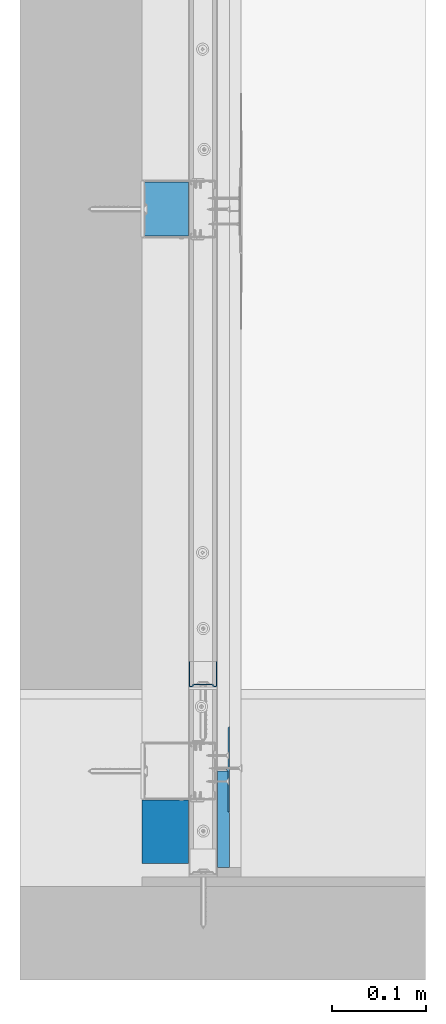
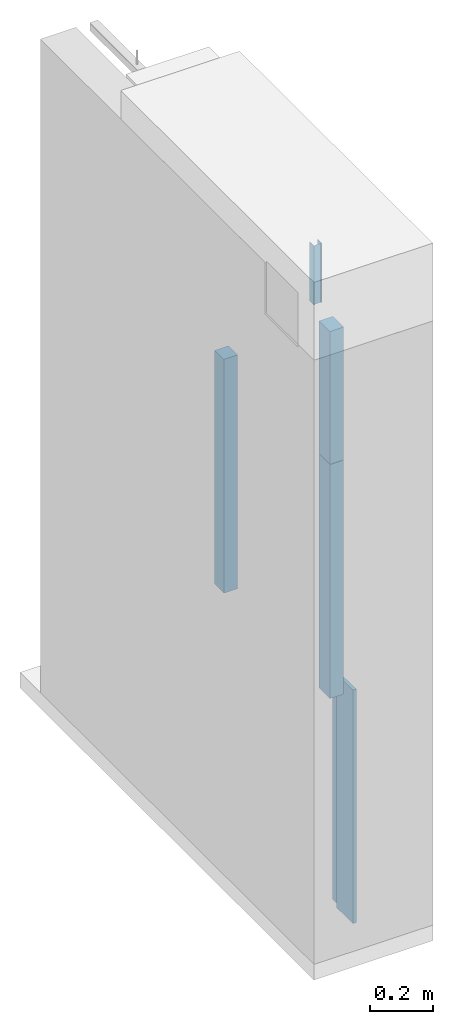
# One storey, part 7 of 62: 6 walls.
"""IFC2X3 building model written with IfcOpenShell, lengths in millimetres."""

from ifc_helpers import new_model, si_unit, frame, origin_with_axes, place, context, subcontext, project, spatial, faceted_brep, material, type_object, element, save


model = new_model("IFC2X3")

# Units and contexts
model_context = context("Model", 3, world=origin_with_axes())
body_context = subcontext(model_context, "Body", "Model", "MODEL_VIEW")
ifc_project = project(units=[si_unit("LENGTHUNIT", "METRE", prefix="MILLI"), si_unit("AREAUNIT", "SQUARE_METRE"), si_unit("VOLUMEUNIT", "CUBIC_METRE")], contexts=[model_context])

# Site, building, storey
site_placement = place(None, frame((2152.14102611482, -2015.0250894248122, 57.61556563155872), z_axis=(0.0, 0.0, 1.0), x_axis=(-1.1102230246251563e-16, 1.0, 0.0)))
site = spatial("IfcSite", under=ifc_project, at=site_placement, Name="Default Site", CompositionType="ELEMENT")
building_placement = place(site_placement, origin_with_axes())
building = spatial("IfcBuilding", under=site, at=building_placement, Name="Default Building", CompositionType="ELEMENT")
storey_placement = place(building_placement, origin_with_axes())
storey = spatial("IfcBuildingStorey", under=building, at=storey_placement, Name="Default Building Storey", CompositionType="ELEMENT", Elevation=57.61556563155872)

# Walls
ifc_material_1 = material(Name="Undefined5")
wall_type_1 = type_object("IfcWallType", Name="Masa szpachlowa konstrukcyjna RIGIPS#2", PredefinedType="NOTDEFINED")
wall_1_placement = place(storey_placement, frame((2976.8888650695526, 5319.236799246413, 261.59003980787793), z_axis=(0.0, 0.0, 1.0), x_axis=(1.0, 0.0, 0.0)))
element("IfcWall", 1, at=wall_1_placement, inside=storey, type_object=wall_type_1, material=ifc_material_1, Name="Masa szpachlowa konstrukcyjna RIGIPS", context=body_context, shape_type="Brep", body=[
    faceted_brep([(-737.5571131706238, -3387.974739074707, 600.7999777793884), (-737.6772165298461, -3388.2646560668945, 600.7999777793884), (-737.8411889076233, -3388.532400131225, 600.7999777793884), (-738.0449771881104, -3388.770818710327, 600.7999777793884), (-738.283634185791, -3388.9746665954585, 600.7999777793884), (-738.5512590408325, -3389.138698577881, 600.7999777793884), (-738.84117603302, -3389.258861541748, 600.7999777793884), (-739.14635181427, -3389.3320560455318, 600.7999777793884), (-739.459216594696, -3389.3566131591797, 600.7999777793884), (-782.4591994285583, -3389.3566131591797, 600.7999777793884), (-782.4591994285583, -3390.556812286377, 600.7999777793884), (-691.4592385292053, -3390.556812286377, 600.7999777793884), (-692.459225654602, -3389.3566131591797, 600.7999777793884), (-735.4592084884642, -3389.3566131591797, 600.7999777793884), (-735.7720732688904, -3389.3320560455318, 600.7999777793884), (-736.0772490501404, -3389.258861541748, 600.7999777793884), (-736.3672256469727, -3389.138698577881, 600.7999777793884), (-736.6347908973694, -3388.9746665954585, 600.7999777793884), (-736.87344789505, -3388.770818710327, 600.7999777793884), (-737.0772361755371, -3388.532400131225, 600.7999777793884), (-737.2412085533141, -3388.2646560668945, 600.7999777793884), (-737.3613119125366, -3387.974739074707, 600.7999777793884), (-737.4345660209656, -3387.669563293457, 600.7999777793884), (-737.4592423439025, -3387.356758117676, 600.7999777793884), (-737.4838590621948, -3387.669563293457, 600.7999777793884), (-782.4591994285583, -3390.556812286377, -249.20158088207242), (-782.4591994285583, -3389.3566131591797, -249.20158088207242), (-739.459216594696, -3389.3566131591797, -249.20158088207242), (-739.14635181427, -3389.3320560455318, -249.20158088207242), (-738.84117603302, -3389.258861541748, -249.20158088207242), (-738.5512590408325, -3389.138698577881, -249.20158088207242), (-738.283634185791, -3388.9746665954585, -249.20158088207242), (-738.0449771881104, -3388.770818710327, -249.20158088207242), (-737.8411889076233, -3388.532400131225, -249.20158088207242), (-737.6772165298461, -3388.2646560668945, -249.20158088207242), (-737.5571131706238, -3387.974739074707, -249.20158088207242), (-737.4838590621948, -3387.669563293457, -249.20158088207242), (-737.4592423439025, -3387.356758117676, -249.20158088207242), (-737.4345660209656, -3387.669563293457, -249.20158088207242), (-737.3613119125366, -3387.974739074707, -249.20158088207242), (-737.2412085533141, -3388.2646560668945, -249.20158088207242), (-737.0772361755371, -3388.532400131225, -249.20158088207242), (-736.87344789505, -3388.770818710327, -249.20158088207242), (-736.6347908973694, -3388.9746665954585, -249.20158088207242), (-736.3672256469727, -3389.138698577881, -249.20158088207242), (-736.0772490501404, -3389.258861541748, -249.20158088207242), (-735.7720732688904, -3389.3320560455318, -249.20158088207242), (-735.4592084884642, -3389.3566131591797, -249.20158088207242), (-692.459225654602, -3389.3566131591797, -249.20158088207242), (-691.4592385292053, -3390.556812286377, -249.20158088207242)], [[[0, 1, 2, 3, 4, 5, 6, 7, 8, 9, 10, 11, 12, 13, 14, 15, 16, 17, 18, 19, 20, 21, 22, 23, 24]], [[25, 26, 27, 28, 29, 30, 31, 32, 33, 34, 35, 36, 37, 38, 39, 40, 41, 42, 43, 44, 45, 46, 47, 48, 49]], [[47, 13, 12, 48]], [[46, 45, 15, 14]], [[14, 13, 47, 46]], [[15, 45, 44, 16]], [[43, 42, 18, 17]], [[17, 16, 44, 43]], [[41, 40, 20, 19]], [[19, 18, 42, 41]], [[20, 40, 39, 21]], [[38, 37, 23, 22]], [[22, 21, 39, 38]], [[36, 35, 0, 24]], [[24, 23, 37, 36]], [[0, 35, 34, 1]], [[33, 32, 3, 2]], [[2, 1, 34, 33]], [[31, 30, 5, 4]], [[4, 3, 32, 31]], [[5, 30, 29, 6]], [[28, 27, 8, 7]], [[7, 6, 29, 28]], [[26, 9, 8, 27]], [[25, 10, 9, 26]], [[49, 11, 10, 25]], [[48, 12, 11, 49]]]),
])
ifc_material_2 = material(Name="Undefined9")
wall_type_2 = type_object("IfcWallType", Name="Profil RIGIPS UD 30 GypSerra®/Ultrastil®#3", PredefinedType="NOTDEFINED")
wall_2_placement = place(storey_placement, frame((2213.9663559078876, 472.8601178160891, 5243.603359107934), z_axis=(1.0, 6.860037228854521e-13, 6.156186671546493e-14), x_axis=(6.156186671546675e-14, -2.6462982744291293e-15, -1.0)))
element("IfcWall", 2, at=wall_2_placement, inside=storey, type_object=wall_type_2, material=ifc_material_2, Name="Profil RIGIPS UD 30 GypSerra®/Ultrastil®", context=body_context, shape_type="Brep", body=[
    faceted_brep([(2953.219337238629, 1469.9159860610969, 140.97499847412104), (2953.219337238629, 1469.366073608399, 140.97499847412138), (2953.2193372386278, 1469.3660736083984, 114.7750020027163), (2953.2193372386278, 1469.3758487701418, 114.6498546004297), (2953.2193372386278, 1469.405174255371, 114.52778428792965), (2953.2193372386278, 1469.4532155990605, 114.41180855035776), (2953.219337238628, 1469.5187807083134, 114.30477350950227), (2953.219337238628, 1469.6003198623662, 114.20931667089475), (2953.219337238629, 1469.6958065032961, 114.1277849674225), (2953.219337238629, 1469.8028564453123, 114.06219750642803), (2953.219337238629, 1469.9188470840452, 114.01415616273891), (2953.219337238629, 1470.0409173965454, 113.98485302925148), (2953.219337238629, 1470.166087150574, 113.97500336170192), (2953.219337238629, 1472.0159769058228, 113.97500336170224), (2953.219337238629, 1472.1635580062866, 113.98871988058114), (2953.219337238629, 1472.3060131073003, 114.02940750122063), (2953.219337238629, 1472.438573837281, 114.09565806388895), (2953.219337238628, 1472.5565910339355, 114.1852140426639), (2953.219337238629, 1472.6560115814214, 114.29499834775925), (2953.2193372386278, 1473.6760854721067, 115.65499752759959), (2953.2193372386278, 1473.7755060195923, 115.7647818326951), (2953.2193372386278, 1473.8935232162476, 115.8543378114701), (2953.219337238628, 1474.0260839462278, 115.92059582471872), (2953.219337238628, 1474.1685390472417, 115.96128344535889), (2953.219337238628, 1474.316000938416, 115.97499996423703), (2953.219337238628, 1493.6159849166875, 115.97499996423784), (2953.219337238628, 1493.7635660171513, 115.96128344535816), (2953.219337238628, 1493.906021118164, 115.92059582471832), (2953.219337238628, 1494.0385818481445, 115.85433781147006), (2953.219337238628, 1494.1565990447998, 115.7647818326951), (2953.219337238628, 1494.2560195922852, 115.65499752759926), (2953.219337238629, 1495.275974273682, 114.29499834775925), (2953.219337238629, 1495.3755140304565, 114.18521404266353), (2953.219337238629, 1495.4935312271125, 114.0956580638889), (2953.219337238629, 1495.626091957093, 114.02940750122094), (2953.219337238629, 1495.7685470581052, 113.98871988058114), (2953.219337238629, 1495.91600894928, 113.97500336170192), (2953.219337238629, 1497.7660179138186, 113.97500336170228), (2953.219337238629, 1497.8911876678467, 113.98485302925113), (2953.219337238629, 1498.0132579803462, 114.01415616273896), (2953.219337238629, 1498.1292486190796, 114.06219750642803), (2953.219337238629, 1498.2362985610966, 114.12778496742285), (2953.219337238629, 1498.331665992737, 114.2093166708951), (2953.219337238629, 1498.4132051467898, 114.30477350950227), (2953.219337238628, 1498.4788894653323, 114.41180855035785), (2953.219337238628, 1498.5269308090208, 114.5277842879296), (2953.219337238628, 1498.5561370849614, 114.64985460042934), (2953.2193372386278, 1498.5660314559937, 114.77500200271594), (2953.219337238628, 1498.5660314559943, 140.97499847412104), (2953.219337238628, 1498.0159997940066, 140.97499847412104), (2953.2193372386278, 1498.0159997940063, 114.77500200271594), (2953.219337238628, 1498.0129003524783, 114.73589390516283), (2953.219337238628, 1498.0038404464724, 114.69774693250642), (2953.219337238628, 1497.9888200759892, 114.66149985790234), (2953.219337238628, 1497.9683160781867, 114.62805420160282), (2953.219337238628, 1497.9428052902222, 114.5982220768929), (2953.219337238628, 1497.9130029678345, 114.57274854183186), (2953.219337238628, 1497.8795051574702, 114.55225199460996), (2953.219337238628, 1497.843265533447, 114.53723907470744), (2953.219337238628, 1497.805118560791, 114.52807486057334), (2953.219337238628, 1497.7660179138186, 114.52499777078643), (2953.219337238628, 1495.91600894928, 114.52499777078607), (2953.219337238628, 1495.8698749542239, 114.52928930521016), (2953.219337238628, 1495.8254098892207, 114.54199999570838), (2953.219337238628, 1495.7840442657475, 114.56270515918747), (2953.219337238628, 1495.7470893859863, 114.59068953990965), (2953.219337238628, 1495.7159757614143, 114.62499946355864), (2953.219337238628, 1494.6960210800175, 115.98499864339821), (2953.219337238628, 1494.5281744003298, 116.1702573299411), (2953.2193372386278, 1494.3289756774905, 116.3213849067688), (2953.2193372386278, 1494.105339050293, 116.43319576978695), (2953.2193372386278, 1493.8650131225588, 116.5018528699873), (2953.2193372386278, 1493.6159849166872, 116.52500182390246), (2953.219337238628, 1474.3160009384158, 116.52500182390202), (2953.219337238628, 1474.067091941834, 116.50185286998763), (2953.219337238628, 1473.8266468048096, 116.4331957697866), (2953.219337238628, 1473.6031293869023, 116.3213849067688), (2953.219337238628, 1473.4039306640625, 116.17025732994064), (2953.219337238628, 1473.2360839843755, 115.98499864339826), (2953.2193372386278, 1472.2160100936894, 114.6249994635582), (2953.2193372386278, 1472.1848964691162, 114.59068953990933), (2953.2193372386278, 1472.1480607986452, 114.56270515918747), (2953.2193372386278, 1472.1066951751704, 114.54199999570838), (2953.2193372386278, 1472.062110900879, 114.52928930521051), (2953.2193372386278, 1472.0159769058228, 114.52499777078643), (2953.2193372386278, 1470.166087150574, 114.52499777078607), (2953.2193372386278, 1470.1268672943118, 114.52807486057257), (2953.2193372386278, 1470.088720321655, 114.53723907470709), (2953.2193372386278, 1470.0524806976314, 114.55225199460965), (2953.2193372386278, 1470.0191020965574, 114.57274854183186), (2953.2193372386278, 1469.9892997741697, 114.59822207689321), (2953.2193372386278, 1469.9637889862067, 114.62805420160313), (2953.2193372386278, 1469.943284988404, 114.66149985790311), (2953.2193372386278, 1469.9282646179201, 114.69774693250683), (2953.2193372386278, 1469.9190855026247, 114.73589390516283), (2953.2193372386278, 1469.9159860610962, 114.7750020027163), (2726.1740592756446, 1469.3660736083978, 114.77500200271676), (2726.174059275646, 1469.3660736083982, 140.97499847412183), (2726.174059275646, 1469.915986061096, 140.9749984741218), (2726.1740592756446, 1469.9159860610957, 114.7750020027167), (2726.1740592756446, 1469.9190855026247, 114.73589390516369), (2726.1740592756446, 1469.9282646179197, 114.69774693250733), (2726.1740592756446, 1469.943284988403, 114.6614998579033), (2726.1740592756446, 1469.963788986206, 114.62805420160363), (2726.1740592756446, 1469.9892997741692, 114.5982220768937), (2726.1740592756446, 1470.019102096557, 114.57274854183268), (2726.1740592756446, 1470.052480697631, 114.5522519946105), (2726.1740592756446, 1470.0887203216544, 114.53723907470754), (2726.1740592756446, 1470.1268672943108, 114.52807486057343), (2726.1740592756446, 1470.166087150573, 114.52499777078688), (2726.1740592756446, 1472.015976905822, 114.52499777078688), (2726.1740592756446, 1472.0621109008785, 114.52928930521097), (2726.1740592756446, 1472.1066951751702, 114.54199999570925), (2726.1740592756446, 1472.1480607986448, 114.56270515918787), (2726.1740592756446, 1472.1848964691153, 114.59068953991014), (2726.1740592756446, 1472.2160100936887, 114.6249994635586), (2726.174059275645, 1473.2360839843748, 115.98499864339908), (2726.174059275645, 1473.4039306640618, 116.17025732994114), (2726.174059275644, 1473.6031293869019, 116.32138490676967), (2726.174059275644, 1473.826646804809, 116.4331957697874), (2726.174059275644, 1474.0670919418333, 116.50185286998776), (2726.174059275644, 1474.3160009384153, 116.52500182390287), (2726.1740592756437, 1493.6159849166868, 116.52500182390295), (2726.1740592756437, 1493.8650131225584, 116.50185286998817), (2726.1740592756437, 1494.1053390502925, 116.43319576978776), (2726.1740592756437, 1494.3289756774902, 116.3213849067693), (2726.1740592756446, 1494.528174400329, 116.17025732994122), (2726.174059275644, 1494.6960210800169, 115.98499864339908), (2726.174059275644, 1495.7159757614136, 114.62499946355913), (2726.174059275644, 1495.7470893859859, 114.59068953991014), (2726.174059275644, 1495.7840442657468, 114.56270515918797), (2726.174059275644, 1495.8254098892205, 114.54199999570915), (2726.174059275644, 1495.869874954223, 114.52928930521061), (2726.174059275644, 1495.916008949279, 114.52499777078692), (2726.174059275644, 1497.7660179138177, 114.52499777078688), (2726.174059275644, 1497.8051185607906, 114.52807486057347), (2726.174059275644, 1497.8432655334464, 114.53723907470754), (2726.174059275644, 1497.8795051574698, 114.55225199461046), (2726.174059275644, 1497.913002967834, 114.57274854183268), (2726.174059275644, 1497.9428052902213, 114.59822207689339), (2726.174059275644, 1497.968316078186, 114.62805420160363), (2726.174059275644, 1497.9888200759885, 114.6614998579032), (2726.174059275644, 1498.003840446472, 114.69774693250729), (2726.174059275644, 1498.012900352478, 114.73589390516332), (2726.174059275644, 1498.0159997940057, 114.7750020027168), (2726.174059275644, 1498.0159997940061, 140.9749984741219), (2726.174059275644, 1498.5660314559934, 140.97499847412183), (2726.174059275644, 1498.5660314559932, 114.77500200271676), (2726.174059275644, 1498.5561370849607, 114.64985460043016), (2726.174059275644, 1498.5269308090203, 114.5277842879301), (2726.174059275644, 1498.4788894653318, 114.41180855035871), (2726.174059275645, 1498.413205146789, 114.30477350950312), (2726.174059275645, 1498.331665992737, 114.20931667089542), (2726.174059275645, 1498.236298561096, 114.12778496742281), (2726.174059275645, 1498.1292486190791, 114.0621975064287), (2726.1740592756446, 1498.013257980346, 114.01415616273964), (2726.1740592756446, 1497.891187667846, 113.9848530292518), (2726.1740592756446, 1497.766017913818, 113.97500336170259), (2726.1740592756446, 1495.9160089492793, 113.97500336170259), (2726.1740592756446, 1495.7685470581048, 113.98871988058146), (2726.1740592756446, 1495.6260919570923, 114.02940750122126), (2726.174059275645, 1495.4935312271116, 114.09565806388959), (2726.174059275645, 1495.3755140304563, 114.18521404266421), (2726.174059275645, 1495.2759742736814, 114.29499834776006), (2726.174059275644, 1494.2560195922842, 115.65499752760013), (2726.174059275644, 1494.1565990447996, 115.76478183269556), (2726.174059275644, 1494.038581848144, 115.85433781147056), (2726.174059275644, 1493.9060211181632, 115.92059582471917), (2726.174059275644, 1493.7635660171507, 115.96128344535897), (2726.174059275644, 1493.6159849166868, 115.97499996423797), (2726.174059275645, 1474.3160009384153, 115.97499996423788), (2726.174059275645, 1474.168539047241, 115.96128344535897), (2726.174059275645, 1474.0260839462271, 115.92059582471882), (2726.174059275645, 1473.8935232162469, 115.85433781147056), (2726.174059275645, 1473.775506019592, 115.76478183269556), (2726.174059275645, 1473.676085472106, 115.65499752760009), (2726.1740592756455, 1472.6560115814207, 114.29499834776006), (2726.1740592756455, 1472.5565910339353, 114.18521404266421), (2726.1740592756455, 1472.43857383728, 114.09565806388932), (2726.174059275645, 1472.3060131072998, 114.02940750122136), (2726.1740592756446, 1472.1635580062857, 113.98871988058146), (2726.1740592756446, 1472.015976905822, 113.97500336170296), (2726.1740592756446, 1470.166087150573, 113.97500336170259), (2726.1740592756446, 1470.0409173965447, 113.9848530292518), (2726.1740592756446, 1469.9188470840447, 114.01415616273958), (2726.1740592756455, 1469.802856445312, 114.06219750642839), (2726.1740592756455, 1469.6958065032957, 114.12778496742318), (2726.1740592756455, 1469.6003198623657, 114.20931667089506), (2726.1740592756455, 1469.518780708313, 114.30477350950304), (2726.1740592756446, 1469.4532155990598, 114.41180855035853), (2726.1740592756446, 1469.4051742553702, 114.52778428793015), (2726.1740592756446, 1469.3758487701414, 114.64985460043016)], [[[0, 1, 2, 3, 4, 5, 6, 7, 8, 9, 10, 11, 12, 13, 14, 15, 16, 17, 18, 19, 20, 21, 22, 23, 24, 25, 26, 27, 28, 29, 30, 31, 32, 33, 34, 35, 36, 37, 38, 39, 40, 41, 42, 43, 44, 45, 46, 47, 48, 49, 50, 51, 52, 53, 54, 55, 56, 57, 58, 59, 60, 61, 62, 63, 64, 65, 66, 67, 68, 69, 70, 71, 72, 73, 74, 75, 76, 77, 78, 79, 80, 81, 82, 83, 84, 85, 86, 87, 88, 89, 90, 91, 92, 93, 94, 95]], [[96, 97, 98, 99, 100, 101, 102, 103, 104, 105, 106, 107, 108, 109, 110, 111, 112, 113, 114, 115, 116, 117, 118, 119, 120, 121, 122, 123, 124, 125, 126, 127, 128, 129, 130, 131, 132, 133, 134, 135, 136, 137, 138, 139, 140, 141, 142, 143, 144, 145, 146, 147, 148, 149, 150, 151, 152, 153, 154, 155, 156, 157, 158, 159, 160, 161, 162, 163, 164, 165, 166, 167, 168, 169, 170, 171, 172, 173, 174, 175, 176, 177, 178, 179, 180, 181, 182, 183, 184, 185, 186, 187, 188, 189, 190, 191]], [[23, 171, 170, 24]], [[22, 172, 171, 23]], [[175, 174, 20, 19]], [[172, 22, 21, 173]], [[20, 174, 173, 21]], [[24, 170, 169, 25]], [[29, 165, 164, 30]], [[165, 29, 28, 166]], [[27, 167, 166, 28]], [[169, 168, 26, 25]], [[26, 168, 167, 27]], [[30, 164, 163, 31]], [[35, 159, 158, 36]], [[34, 160, 159, 35]], [[33, 32, 162, 161]], [[161, 160, 34, 33]], [[163, 162, 32, 31]], [[36, 158, 157, 37]], [[46, 45, 149, 148]], [[148, 147, 47, 46]], [[44, 150, 149, 45]], [[43, 42, 152, 151]], [[151, 150, 44, 43]], [[41, 40, 154, 153]], [[153, 152, 42, 41]], [[39, 155, 154, 40]], [[38, 37, 157, 156]], [[156, 155, 39, 38]], [[47, 147, 146, 48]], [[48, 146, 145, 49]], [[49, 145, 144, 50]], [[134, 60, 59, 135]], [[58, 136, 135, 59]], [[57, 137, 136, 58]], [[137, 57, 56, 138]], [[55, 139, 138, 56]], [[139, 55, 54, 140]], [[53, 141, 140, 54]], [[52, 142, 141, 53]], [[142, 52, 51, 143]], [[50, 144, 143, 51]], [[60, 134, 133, 61]], [[65, 129, 128, 66]], [[129, 65, 64, 130]], [[63, 131, 130, 64]], [[133, 132, 62, 61]], [[62, 132, 131, 63]], [[66, 128, 127, 67]], [[71, 123, 122, 72]], [[70, 69, 125, 124]], [[124, 123, 71, 70]], [[68, 126, 125, 69]], [[127, 126, 68, 67]], [[72, 122, 121, 73]], [[77, 117, 116, 78]], [[76, 118, 117, 77]], [[75, 74, 120, 119]], [[119, 118, 76, 75]], [[121, 120, 74, 73]], [[78, 116, 115, 79]], [[83, 111, 110, 84]], [[82, 112, 111, 83]], [[115, 114, 80, 79]], [[112, 82, 81, 113]], [[80, 114, 113, 81]], [[84, 110, 109, 85]], [[99, 95, 94, 100]], [[93, 101, 100, 94]], [[92, 102, 101, 93]], [[102, 92, 91, 103]], [[90, 104, 103, 91]], [[104, 90, 89, 105]], [[88, 106, 105, 89]], [[87, 107, 106, 88]], [[107, 87, 86, 108]], [[85, 109, 108, 86]], [[95, 99, 98, 0]], [[0, 98, 97, 1]], [[1, 97, 96, 2]], [[11, 10, 184, 183]], [[183, 182, 12, 11]], [[9, 185, 184, 10]], [[6, 5, 189, 188]], [[7, 6, 188, 187]], [[8, 7, 187, 186]], [[186, 185, 9, 8]], [[4, 190, 189, 5]], [[3, 2, 96, 191]], [[191, 190, 4, 3]], [[12, 182, 181, 13]], [[17, 177, 176, 18]], [[16, 15, 179, 178]], [[178, 177, 17, 16]], [[14, 180, 179, 15]], [[181, 180, 14, 13]], [[18, 176, 175, 19]]]),
])
ifc_material_3 = material(Name="Undefined7")
wall_type_3 = type_object("IfcWallType", Name="Płyta gipsowo-kartonowa RIGIPS PRO (4PRO™)#1", PredefinedType="NOTDEFINED")
wall_3_placement = place(storey_placement, frame((1039.398529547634, 1941.1800775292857, 1162.3900398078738), z_axis=(0.0, 0.0, 1.0), x_axis=(1.0, 0.0, 0.0)))
element("IfcWall", 3, at=wall_3_placement, inside=storey, type_object=wall_type_3, material=ifc_material_3, Name="Płyta gipsowo-kartonowa RIGIPS PRO (4PRO™)", context=body_context, shape_type="Brep", body=[
    faceted_brep([(1095.6309516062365, -12.500000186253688, -249.99999999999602), (1095.6309516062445, -0.0019148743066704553, -250.0), (1095.6309516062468, -0.0019148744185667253, -1150.0015258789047), (1095.6309516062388, -12.500000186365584, -1150.0015258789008), (1198.0000009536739, -11.500000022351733, -1150.001525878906), (1198.2588043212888, -11.465925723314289, -1150.001525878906), (1198.2588043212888, -11.465925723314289, -250.0), (1198.0000009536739, -11.500000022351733, -250.0), (1199.0000476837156, 0.0, -250.0), (1199.0000476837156, 0.0, -1150.001525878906), (1198.49996471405, -11.366025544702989, -1150.001525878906), (1198.7071504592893, -11.207106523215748, -1150.001525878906), (1198.7071504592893, -11.207106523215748, -250.0), (1198.49996471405, -11.366025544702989, -250.0), (1158.000039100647, -11.500000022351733, -1150.001525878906), (1158.000039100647, -11.500000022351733, -250.0), (1198.9659538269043, -10.758819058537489, -1150.001525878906), (1198.9659538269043, -10.758819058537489, -250.0), (1198.8660564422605, -10.999999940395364, -250.0), (1198.8660564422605, -10.999999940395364, -1150.001525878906), (1199.0000476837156, -10.49999985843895, -250.0), (1199.0000476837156, -10.49999985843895, -1150.001525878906), (1153.9999713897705, -12.50000018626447, -250.0), (1153.9999713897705, -12.50000018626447, -1150.001525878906)], [[[0, 1, 2, 3]], [[4, 5, 6, 7]], [[1, 8, 9, 2]], [[10, 11, 12, 13]], [[14, 4, 7, 15]], [[16, 17, 18, 19]], [[19, 18, 12, 11]], [[9, 8, 20, 21]], [[22, 15, 7, 6, 13, 12, 18, 17, 20, 8, 1, 0]], [[0, 3, 23, 22]], [[5, 10, 13, 6]], [[10, 5, 4, 14, 23, 3, 2, 9, 21, 16, 19, 11]], [[23, 14, 15, 22]], [[21, 20, 17, 16]]]),
])
ifc_material_4 = material(Name="Default")
wall_type_4 = type_object("IfcWallType", Name="Wypełnienie z wełny mineralnej szklanej ISOVER#15", PredefinedType="NOTDEFINED")
wall_4_placement = place(storey_placement, frame((2641.06230676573, 5350.424146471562, 895.3595813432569), z_axis=(0.0, 0.0, 1.0), x_axis=(-1.0, 4.718447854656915e-16, 0.0)))
element("IfcWall", 4, at=wall_4_placement, inside=storey, type_object=wall_type_4, material=ifc_material_4, Name="Wypełnienie z wełny mineralnej szklanej ISOVER", context=body_context, shape_type="Brep", body=[
    faceted_brep([(-168.12478005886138, 3328.2832634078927, 10.28402615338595), (-168.12478005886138, 3328.2832634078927, 911.5436077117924), (-225.9747815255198, 3328.2832634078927, 911.5436077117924), (-225.9747815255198, 3328.2832634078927, 10.28402615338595), (-168.124780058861, 3378.283168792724, 10.28402615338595), (-168.124780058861, 3378.283168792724, 911.5436077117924), (-225.9747815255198, 3378.283168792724, 911.5436077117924), (-225.9747815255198, 3378.283168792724, 10.28402615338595)], [[[0, 1, 2, 3]], [[0, 4, 5, 1]], [[6, 5, 4, 7]], [[7, 4, 0, 3]]]),
    faceted_brep([(-225.9747815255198, 3328.2832634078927, 911.5436077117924), (-225.9747815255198, 3378.283168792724, 911.5436077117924), (-225.9747815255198, 3378.283168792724, 10.28402615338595), (-225.9747815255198, 3328.2832634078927, 10.28402615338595), (-168.12478005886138, 3328.2832634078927, 911.5436077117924), (-168.124780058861, 3378.283168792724, 911.5436077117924)], [[[0, 1, 2, 3]], [[1, 0, 4, 5]]]),
])
ifc_material_5 = material(Name="Undefined")
wall_type_5 = type_object("IfcWallType", Name="Wypełnienie z wełny mineralnej szklanej ISOVER#13", PredefinedType="NOTDEFINED")
wall_5_placement = place(storey_placement, frame((1971.1842541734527, 5350.424146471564, 895.3595813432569), z_axis=(0.0, 0.0, 1.0), x_axis=(-1.0, 4.718447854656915e-16, 0.0)))
element("IfcWall", 5, at=wall_5_placement, inside=storey, type_object=wall_type_5, material=ifc_material_5, Name="Wypełnienie z wełny mineralnej szklanej ISOVER", context=body_context, shape_type="Brep", body=[
    faceted_brep([(-168.12478005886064, 3328.283263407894, 10.568294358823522), (-168.12478005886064, 3328.283263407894, 911.5436077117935), (-236.00283265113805, 3328.283263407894, 911.5436077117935), (-236.00283265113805, 3328.283263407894, 10.568294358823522), (-168.12478005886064, 3378.2831687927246, 10.568294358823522), (-168.12478005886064, 3378.2831687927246, 911.5436077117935), (-236.00283265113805, 3378.283168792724, 911.5436077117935), (-236.00283265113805, 3378.283168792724, 10.568294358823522)], [[[0, 1, 2, 3]], [[0, 4, 5, 1]], [[6, 5, 4, 7]], [[7, 4, 0, 3]]]),
    faceted_brep([(-236.00283265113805, 3328.283263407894, 911.5436077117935), (-236.00283265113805, 3378.283168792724, 911.5436077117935), (-236.00283265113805, 3378.283168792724, 10.568294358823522), (-236.00283265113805, 3328.283263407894, 10.568294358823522), (-168.12478005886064, 3328.283263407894, 911.5436077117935), (-168.12478005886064, 3378.2831687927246, 911.5436077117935)], [[[0, 1, 2, 3]], [[1, 0, 4, 5]]]),
])
wall_type_6 = type_object("IfcWallType", Name="Wypełnienie z wełny mineralnej szklanej ISOVER#8", PredefinedType="NOTDEFINED")
wall_6_placement = place(storey_placement, frame((1971.1842541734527, 5350.42414647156, 1801.0031894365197), z_axis=(0.0, 0.0, 1.0), x_axis=(-1.0, 4.718447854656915e-16, 0.0)))
element("IfcWall", 6, at=wall_6_placement, inside=storey, type_object=wall_type_6, material=ifc_material_5, Name="Wypełnienie z wełny mineralnej szklanej ISOVER", context=body_context, shape_type="Brep", body=[
    faceted_brep([(-168.12478005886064, 3328.283263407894, 7.899999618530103), (-168.12478005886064, 3328.283263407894, 519.3912449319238), (-236.00283265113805, 3328.283263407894, 519.3912449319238), (-236.00283265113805, 3328.283263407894, 7.899999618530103), (-168.12478005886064, 3378.2831687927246, 7.899999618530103), (-168.12478005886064, 3378.2831687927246, 519.3912449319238), (-236.00283265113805, 3378.283168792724, 519.3912449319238), (-236.00283265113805, 3378.283168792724, 7.899999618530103)], [[[0, 1, 2, 3]], [[0, 4, 5, 1]], [[6, 5, 4, 7]], [[7, 4, 0, 3]]]),
    faceted_brep([(-236.00283265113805, 3328.283263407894, 519.3912449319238), (-236.00283265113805, 3378.283168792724, 519.3912449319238), (-236.00283265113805, 3378.283168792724, 7.899999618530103), (-236.00283265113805, 3328.283263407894, 7.899999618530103), (-168.12478005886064, 3328.283263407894, 519.3912449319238), (-168.12478005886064, 3378.2831687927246, 519.3912449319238)], [[[0, 1, 2, 3]], [[1, 0, 4, 5]]]),
])

save(model, "model.ifc")
